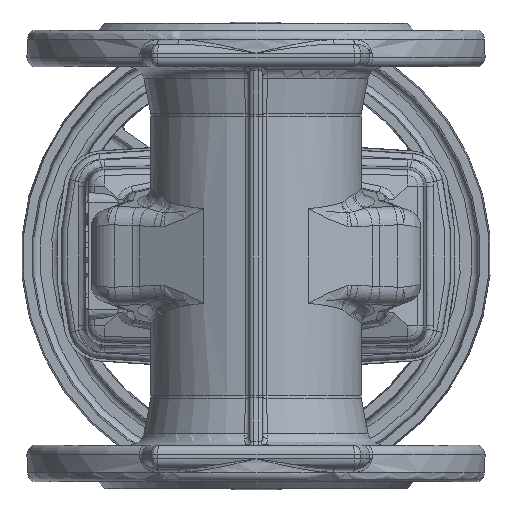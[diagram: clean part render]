
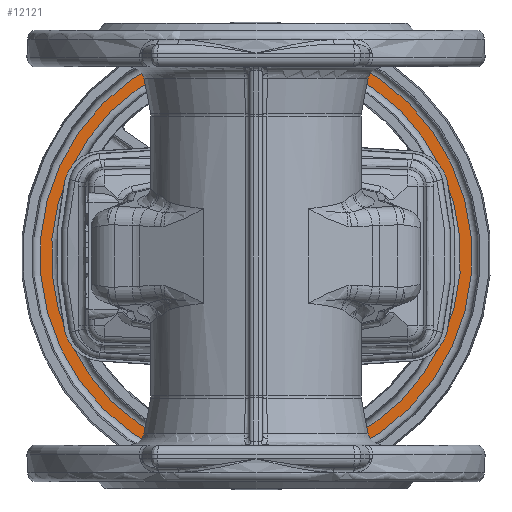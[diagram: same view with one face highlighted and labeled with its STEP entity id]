
A CAD part, front view. The second image highlights one B-rep face of the part: STEP entity #12121.
In plain terms, the highlighted planar face has unit normal (0, -1, 0).
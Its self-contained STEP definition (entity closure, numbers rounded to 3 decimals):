
#3584 = CIRCLE ( 'NONE', #13598, 89.355 ) ;
#3592 = CIRCLE ( 'NONE', #13602, 94.299 ) ;
#8370 = AXIS2_PLACEMENT_3D ( 'NONE', #24992, #25012, #25014 ) ;
#10154 = CARTESIAN_POINT ( 'NONE',  ( 0., 400.5, 0. ) ) ;
#10155 = DIRECTION ( 'NONE',  ( 0., 1., 0. ) ) ;
#10156 = DIRECTION ( 'NONE',  ( 0.821, 0., -0.571 ) ) ;
#10164 = CARTESIAN_POINT ( 'NONE',  ( 0., 400.5, 0. ) ) ;
#10165 = DIRECTION ( 'NONE',  ( 0., 1., 0. ) ) ;
#10166 = DIRECTION ( 'NONE',  ( 0.821, 0., -0.571 ) ) ;
#12121 = ADVANCED_FACE ( 'NONE', ( #16480, #16476 ), #25009, .F. ) ;
#13598 = AXIS2_PLACEMENT_3D ( 'NONE', #10154, #10155, #10156 ) ;
#13602 = AXIS2_PLACEMENT_3D ( 'NONE', #10164, #10165, #10166 ) ;
#15172 = EDGE_CURVE ( 'NONE', #16956, #16956, #3584, .T. ) ;
#15175 = EDGE_CURVE ( 'NONE', #16960, #16960, #3592, .T. ) ;
#16476 = FACE_BOUND ( 'NONE', #27111, .T. ) ;
#16480 = FACE_OUTER_BOUND ( 'NONE', #27110, .T. ) ;
#16956 = VERTEX_POINT ( 'NONE', #25106 ) ;
#16960 = VERTEX_POINT ( 'NONE', #25110 ) ;
#24992 = CARTESIAN_POINT ( 'NONE',  ( -73.361, 400.5, 51.014 ) ) ;
#25009 = PLANE ( 'NONE',  #8370 ) ;
#25012 = DIRECTION ( 'NONE',  ( 0., 1., 0. ) ) ;
#25014 = DIRECTION ( 'NONE',  ( 0.821, 0., -0.571 ) ) ;
#25106 = CARTESIAN_POINT ( 'NONE',  ( 73.361, 400.5, -51.014 ) ) ;
#25110 = CARTESIAN_POINT ( 'NONE',  ( 77.42, 400.5, -53.837 ) ) ;
#27110 = EDGE_LOOP ( 'NONE', ( #27184 ) ) ;
#27111 = EDGE_LOOP ( 'NONE', ( #27183 ) ) ;
#27183 = ORIENTED_EDGE ( 'NONE', *, *, #15172, .T. ) ;
#27184 = ORIENTED_EDGE ( 'NONE', *, *, #15175, .F. ) ;
